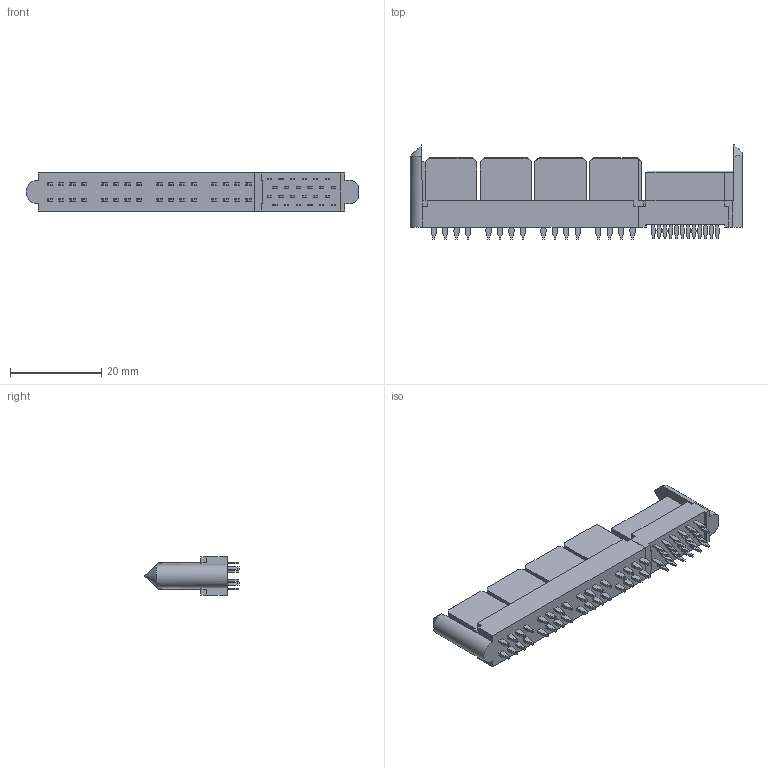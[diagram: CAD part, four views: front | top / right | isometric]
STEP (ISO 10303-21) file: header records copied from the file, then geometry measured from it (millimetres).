
FILE_DESCRIPTION((''),'2;1');
FILE_NAME('461148240','2018-02-23T',('ksrinivasara'),(''),'PRO/ENGINEER BY PARAMETRIC TECHNOLOGY CORPORATION, 2012310','PRO/ENGINEER BY PARAMETRIC TECHNOLOGY CORPORATION, 2012310','');
FILE_SCHEMA(('CONFIG_CONTROL_DESIGN'));
Length unit declared in the file: millimetre
Products named in the file (1): 461148240
Bounding box: 72.63 x 20.59 x 8.33 mm (x, y, z)
Volume: 5231.2 mm3; surface area: 5990.8 mm2
Topology: 1 solids, 1 shells, 1045 faces, 2942 edges, 1981 vertices
Faces by surface type: plane 832, cylinder 211, cone 2
Entity records: 33500 total; most frequent: CARTESIAN_POINT 5892, ORIENTED_EDGE 5654, DIRECTION 5561, EDGE_CURVE 2827, VECTOR 2401, LINE 2401, VERTEX_POINT 1865, AXIS2_PLACEMENT_3D 1580
